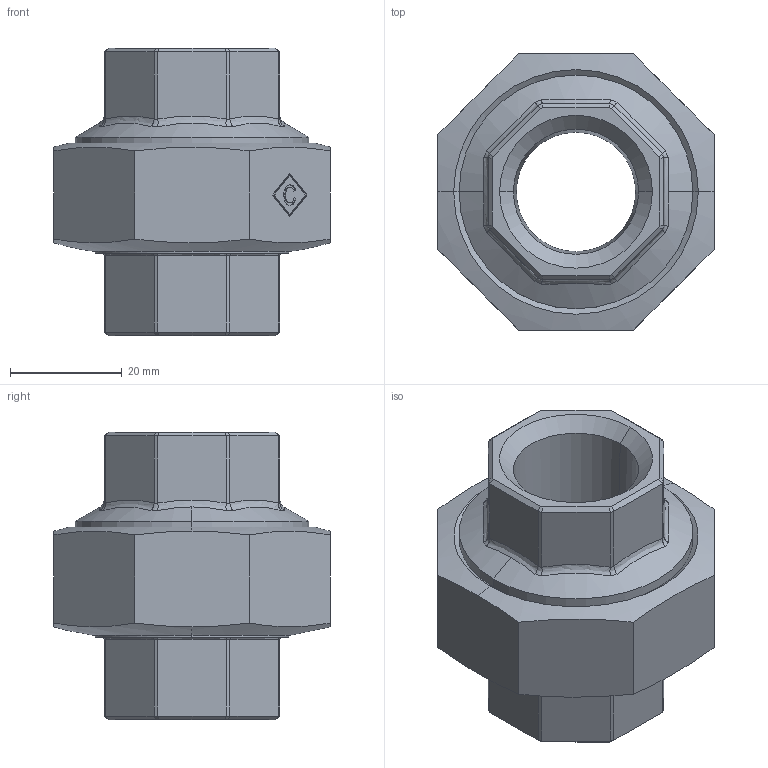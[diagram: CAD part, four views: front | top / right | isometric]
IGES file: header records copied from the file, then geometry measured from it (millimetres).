
Global section: file name: No Iges File Name specified; native system: AutoDesk Inventor R12.0; preprocessor: AutoDesk Inventor Iges Exporter R12.0; date: 20090918.091207; units: millimetre
Bounding box: 49.53 x 49.53 x 51.62 mm (x, y, z)
Volume: 41985.4 mm3; surface area: 17015.1 mm2
Topology: 1 solids, 2 shells, 171 faces, 413 edges, 253 vertices
Faces by surface type: plane 61, bspline 40, revolution 30, cylinder 22, cone 18
